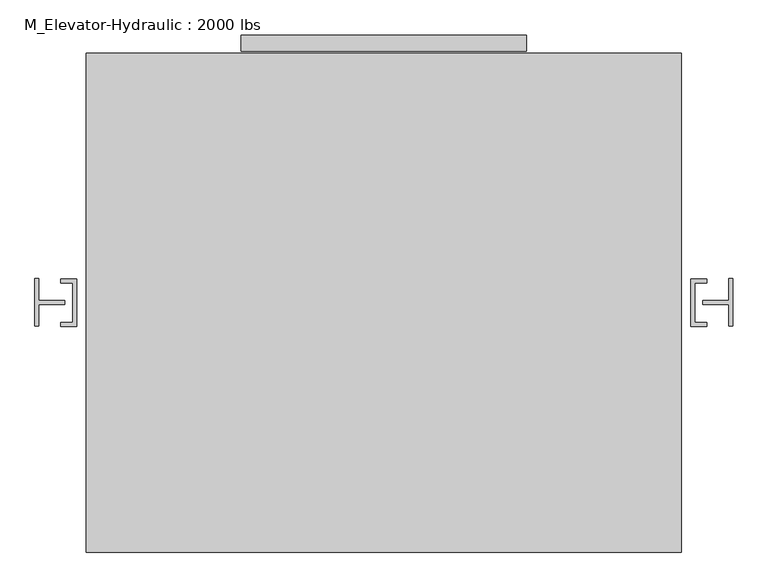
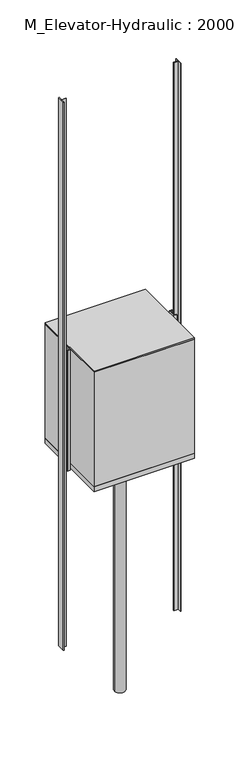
"""IFC4 building model written with IfcOpenShell, lengths in millimetres: proxy geometry, M_Elevator-Hydraulic : 2000 lbs."""

from ifc_helpers import new_model, si_unit, point, frame, frame_2d, origin, origin_with_axes, place, context, project, spatial, polyline, circle_curve, trimmed, segment, composite_curve, outline, extrude, faceted_brep, source, transform, mapped, element, save


def m_elevator_hydraulic_2000_lbs_6c85c9be(model_context):
    return source(origin(), model_context, "Body", "SolidModel", [
        faceted_brep([(-945.0530035, 797.2781737, 5943.6), (-945.0530035, -802.9218263, 5943.6), (959.9469965, -802.9218263, 5943.6), (959.9469965, 797.2781737, 5943.6), (921.8469965, -764.8218263, 5943.6), (-906.9530035, -764.8218263, 5943.6), (-906.9530035, 759.1781737, 5943.6), (921.8469965, 759.1781737, 5943.6), (-906.9530035, -764.8218263, 3657.6), (-449.7530035, -764.8218263, 3657.6), (464.6469965, -764.8218263, 3657.6), (921.8469965, -764.8218263, 3657.6), (921.8469965, 759.1781737, 3657.6), (464.6469965, 759.1781737, 3657.6), (464.6469965, 797.2781737, 3657.6), (959.9469965, 797.2781737, 3657.6), (959.9469965, -802.9218263, 3657.6), (-945.0530035, -802.9218263, 3657.6), (-945.0530035, 797.2781737, 3657.6), (-449.7530035, 797.2781737, 3657.6), (-449.7530035, 759.1781737, 3657.6), (-906.9530035, 759.1781737, 3657.6), (-449.7530035, 759.1781737, 5689.6), (464.6469965, 759.1781737, 5689.6), (464.6469965, 797.2781737, 5689.6), (-449.7530035, 797.2781737, 5689.6)], [[[0, 1, 2, 3], [4, 5, 6, 7]], [[8, 9, 10, 11, 12, 13, 14, 15, 16, 17, 18, 19, 20, 21]], [[7, 12, 11, 4]], [[6, 21, 20, 22, 23, 13, 12, 7]], [[5, 8, 21, 6]], [[4, 11, 10, 9, 8, 5]], [[3, 15, 14, 24, 25, 19, 18, 0]], [[2, 16, 15, 3]], [[1, 17, 16, 2]], [[0, 18, 17, 1]], [[23, 22, 25, 24]], [[22, 20, 19, 25]], [[24, 14, 13, 23]]]),
        extrude(outline(polyline([(464.6469965, 803.6281737), (-449.7530035, 803.6281737), (-449.7530035, 854.4281737), (464.6469965, 854.4281737), (464.6469965, 803.6281737)])), frame((0.0, 0.0, 3657.6), z_axis=(0.0, 0.0, 1.0), x_axis=(1.0, 0.0, 0.0)), (0.0, 0.0, 1.0), 2032.0),
        extrude(outline(polyline([(959.9469965, -802.9218263), (-945.0530035, -802.9218263), (-945.0530035, 797.2781737), (959.9469965, 797.2781737), (959.9469965, -802.9218263)])), frame((0.0, 0.0, 5943.6), z_axis=(0.0, 0.0, 1.0), x_axis=(1.0, 0.0, 0.0)), (0.0, 0.0, 1.0), 25.4),
        extrude(outline(composite_curve([segment(trimmed(circle_curve(frame_2d((7.4469965, -2.8218263)), 101.6), [point((-94.1530035, -2.8218263))], [point((109.0469965, -2.8218263))], False, "CARTESIAN"), True, "CONTINUOUS"), segment(trimmed(circle_curve(frame_2d((7.4469965, -2.8218263)), 101.6), [point((109.0469965, -2.8218263))], [point((-94.1530035, -2.8218263))], False, "CARTESIAN"), True, "CONTINUOUS")], self_intersect=False)), frame((0.0, 0.0, -1219.2), z_axis=(0.0, 0.0, 1.0), x_axis=(1.0, 0.0, 0.0)), (0.0, 0.0, 1.0), 4775.2),
        extrude(outline(polyline([(959.9469965, -802.9218263), (-945.0530035, -802.9218263), (-945.0530035, 797.2781737), (959.9469965, 797.2781737), (959.9469965, -802.9218263)])), frame((0.0, 0.0, 3556.0), z_axis=(0.0, 0.0, 1.0), x_axis=(1.0, 0.0, 0.0)), (0.0, 0.0, 1.0), 101.6),
        extrude(outline(polyline([(-976.8030035, -79.0218263), (-1027.6030035, -79.0218263), (-1027.6030035, -66.3218263), (-989.5030035, -66.3218263), (-989.5030035, 60.6781737), (-1027.6030035, 60.6781737), (-1027.6030035, 73.3781737), (-976.8030035, 73.3781737), (-976.8030035, -79.0218263)])), frame((0.0, 0.0, 3556.0), z_axis=(0.0, 0.0, 1.0), x_axis=(1.0, 0.0, 0.0)), (0.0, 0.0, 1.0), 2413.0),
        extrude(outline(polyline([(991.6969965, -79.0218263), (991.6969965, 73.3781737), (1042.4969965, 73.3781737), (1042.4969965, 60.6781737), (1004.3969965, 60.6781737), (1004.3969965, -66.3218263), (1042.4969965, -66.3218263), (1042.4969965, -79.0218263), (991.6969965, -79.0218263)])), frame((0.0, 0.0, 3556.0), z_axis=(0.0, 0.0, 1.0), x_axis=(1.0, 0.0, 0.0)), (0.0, 0.0, 1.0), 2413.0),
        extrude(outline(polyline([(-1097.4530035, -79.0218263), (-1110.1530035, -79.0218263), (-1110.1530035, 73.3781737), (-1097.4530035, 73.3781737), (-1097.4530035, 3.5281737), (-1014.9030035, 3.5281737), (-1014.9030035, -9.1718263), (-1097.4530035, -9.1718263), (-1097.4530035, -79.0218263)])), origin_with_axes(), (0.0, 0.0, 1.0), 10972.8),
        extrude(outline(polyline([(1112.3469965, -79.0218263), (1112.3469965, -9.1718263), (1029.7969965, -9.1718263), (1029.7969965, 3.5281737), (1112.3469965, 3.5281737), (1112.3469965, 73.3781737), (1125.0469965, 73.3781737), (1125.0469965, -79.0218263), (1112.3469965, -79.0218263)])), origin_with_axes(), (0.0, 0.0, 1.0), 10972.8),
    ])


if __name__ == "__main__":
    model = new_model("IFC4")
    model_context = context("Model", 3, world=origin())
    ifc_project = project(units=[si_unit("LENGTHUNIT", "METRE", prefix="MILLI")], contexts=[model_context])
    site = spatial("IfcSite", under=ifc_project)
    building = spatial("IfcBuilding", under=site)
    placement = place(None, origin())
    m_elevator_hydraulic_2000_lbs_shape = m_elevator_hydraulic_2000_lbs_6c85c9be(model_context)
    element("IfcBuildingElementProxy", 1, Name="M_Elevator-Hydraulic : 2000 lbs", ObjectType="M_Elevator-Hydraulic : 2000 lbs", at=placement, inside=building, context=model_context, shape_type="MappedRepresentation", body=[
        mapped(m_elevator_hydraulic_2000_lbs_shape, transform((0.0, 0.0, 0.0), x_axis=(1.0, 0.0, 0.0), y_axis=(0.0, 1.0, 0.0), z_axis=(0.0, 0.0, 1.0))),
    ])
    save(model, "model.ifc")
